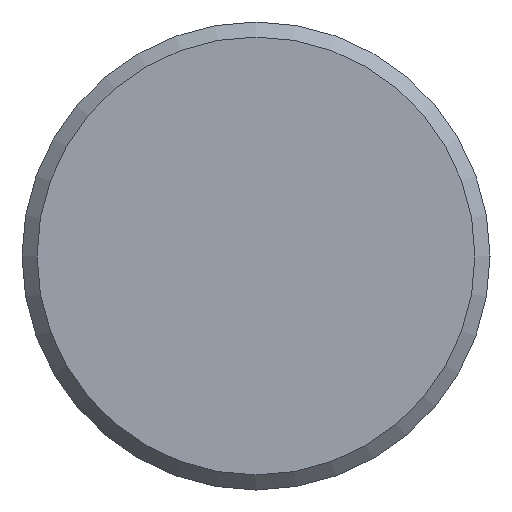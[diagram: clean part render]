
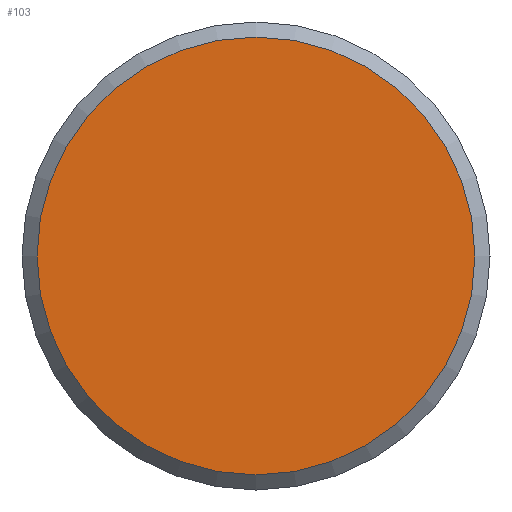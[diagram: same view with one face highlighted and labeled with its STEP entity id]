
A CAD part, left-side view. The second image highlights one B-rep face of the part: STEP entity #103.
In plain terms, the highlighted planar face has unit normal (-1, 0, 0).
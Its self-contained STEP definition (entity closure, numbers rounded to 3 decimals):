
#16=PLANE('',#138);
#30=FACE_OUTER_BOUND('',#36,.T.);
#36=EDGE_LOOP('',(#89));
#45=CIRCLE('',#137,14.5);
#53=VERTEX_POINT('',#197);
#65=EDGE_CURVE('',#53,#53,#45,.T.);
#89=ORIENTED_EDGE('',*,*,#65,.F.);
#103=ADVANCED_FACE('',(#30),#16,.F.);
#137=AXIS2_PLACEMENT_3D('',#199,#170,#171);
#138=AXIS2_PLACEMENT_3D('',#200,#172,#173);
#170=DIRECTION('center_axis',(1.,0.,0.));
#171=DIRECTION('ref_axis',(0.,-1.,0.));
#172=DIRECTION('center_axis',(1.,0.,0.));
#173=DIRECTION('ref_axis',(0.,0.,-1.));
#197=CARTESIAN_POINT('',(0.,14.5,0.));
#199=CARTESIAN_POINT('Origin',(0.,0.,0.));
#200=CARTESIAN_POINT('Origin',(0.,0.,0.));
